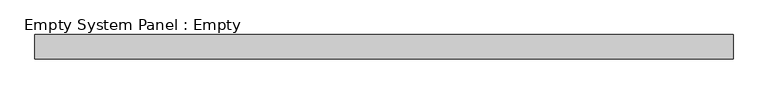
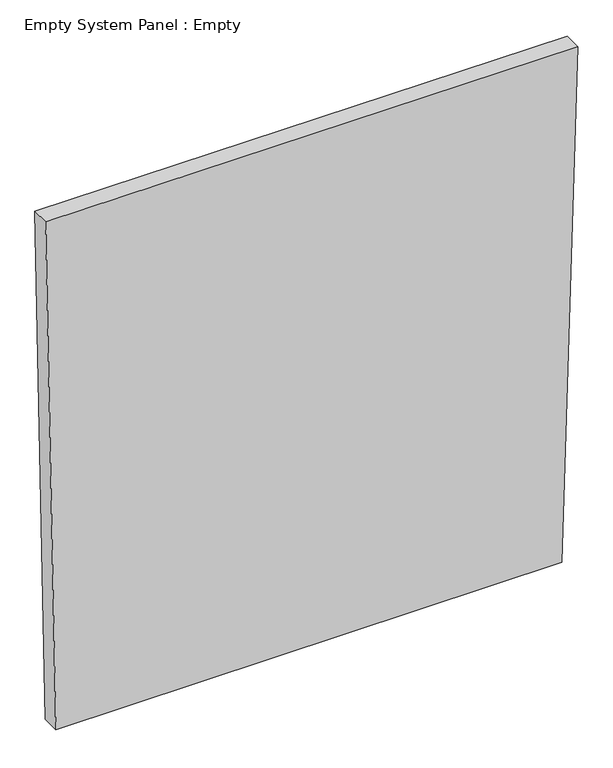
"""IFC4 building model written with IfcOpenShell, lengths in millimetres: plate geometry, Empty System Panel : Empty."""

from ifc_helpers import new_model, si_unit, frame, origin, place, context, project, spatial, polyline, outline, extrude, source, transform, mapped, element, save


def empty_system_panel_empty_70719ecd(model_context):
    return source(origin(), model_context, "Body", "SweptSolid", [
        extrude(outline(polyline([(0.0, -1410.5119675), (0.0, 1378.167968), (2972.0676362, 1467.4311144), (2980.9093505, -1467.4311144), (0.0, -1410.5119675)])), frame((0.0, -50.8, 0.0), z_axis=(0.0, 1.0, 0.0), x_axis=(0.0, 0.0, 1.0)), (0.0, 0.0, 1.0), 101.6),
    ])


if __name__ == "__main__":
    model = new_model("IFC4")
    model_context = context("Model", 3, world=origin())
    ifc_project = project(units=[si_unit("LENGTHUNIT", "METRE", prefix="MILLI")], contexts=[model_context])
    site = spatial("IfcSite", under=ifc_project)
    building = spatial("IfcBuilding", under=site)
    placement = place(None, origin())
    empty_system_panel_empty_shape = empty_system_panel_empty_70719ecd(model_context)
    element("IfcPlate", 1, ObjectType="Empty System Panel : Empty", at=placement, inside=building, context=model_context, shape_type="MappedRepresentation", body=[
        mapped(empty_system_panel_empty_shape, transform((0.0, 0.0, 0.0), x_axis=(1.0, 0.0, 0.0), y_axis=(0.0, 1.0, 0.0), z_axis=(0.0, 0.0, 1.0))),
    ])
    save(model, "model.ifc")
